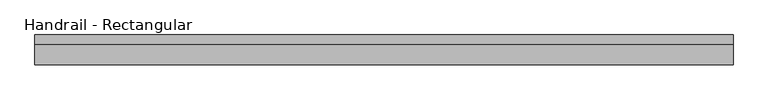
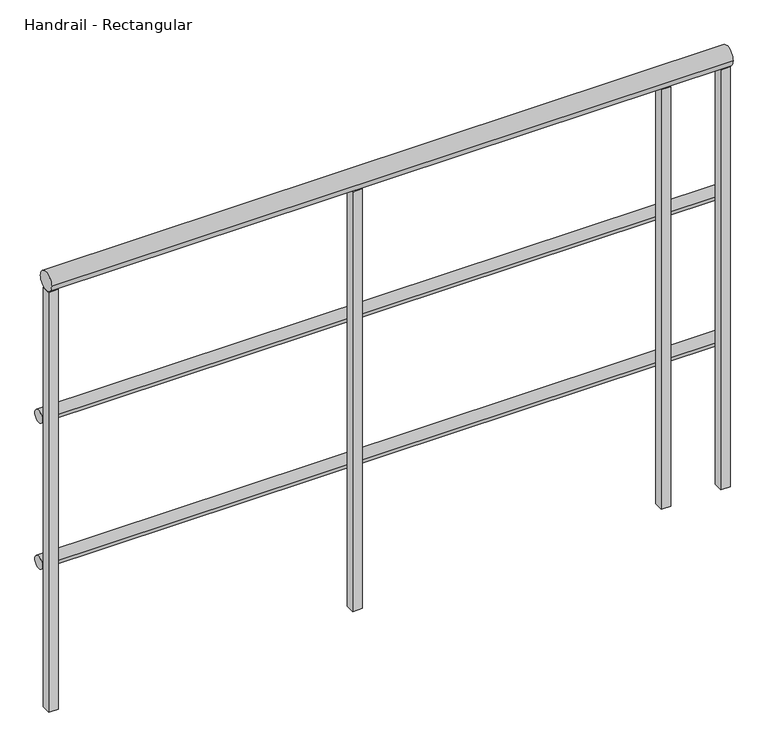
"""IFC4 building model written with IfcOpenShell, lengths in millimetres: railing geometry, Handrail - Rectangular."""

from ifc_helpers import new_model, si_unit, point, frame, frame_2d, origin, place, context, project, spatial, polyline, circle_curve, trimmed, segment, composite_curve, outline, extrude, source, transform, mapped, element, save


def handrail_rectangular_875d33ba(model_context):
    return source(origin(), model_context, "Body", "SweptSolid", [
        extrude(outline(composite_curve([segment(trimmed(circle_curve(frame_2d((11970.2316867, 9740.9)), 12.7), [point((11982.9316867, 9740.9))], [point((11957.5316867, 9740.9))], False, "CARTESIAN"), True, "CONTINUOUS"), segment(trimmed(circle_curve(frame_2d((11970.2316867, 9740.9)), 12.7), [point((11957.5316867, 9740.9))], [point((11982.9316867, 9740.9))], False, "CARTESIAN"), True, "CONTINUOUS")], self_intersect=False)), frame((-5665.7589563, 0.0, 0.0), z_axis=(1.0, 0.0, 0.0), x_axis=(0.0, 1.0, 0.0)), (0.0, 0.0, 1.0), 1346.2),
        extrude(outline(composite_curve([segment(trimmed(circle_curve(frame_2d((11970.2316867, 9436.1)), 12.7), [point((11982.9316867, 9436.1))], [point((11957.5316867, 9436.1))], False, "CARTESIAN"), True, "CONTINUOUS"), segment(trimmed(circle_curve(frame_2d((11970.2316867, 9436.1)), 12.7), [point((11957.5316867, 9436.1))], [point((11982.9316867, 9436.1))], False, "CARTESIAN"), True, "CONTINUOUS")], self_intersect=False)), frame((-5665.7589563, 0.0, 0.0), z_axis=(1.0, 0.0, 0.0), x_axis=(0.0, 1.0, 0.0)), (0.0, 0.0, 1.0), 1346.2),
        extrude(outline(composite_curve([segment(trimmed(circle_curve(frame_2d((11944.8316867, 10039.35)), 19.05), [point((11963.8816867, 10039.35))], [point((11925.7816867, 10039.35))], False, "CARTESIAN"), True, "CONTINUOUS"), segment(trimmed(circle_curve(frame_2d((11944.8316867, 10039.35)), 19.05), [point((11925.7816867, 10039.35))], [point((11963.8816867, 10039.35))], False, "CARTESIAN"), True, "CONTINUOUS")], self_intersect=False)), frame((-5665.7589563, 0.0, 0.0), z_axis=(1.0, 0.0, 0.0), x_axis=(0.0, 1.0, 0.0)), (0.0, 0.0, 1.0), 1346.2),
        extrude(outline(polyline([(-4456.0839563, 11935.3066867), (-4456.0839563, 11954.3566867), (-4437.0339563, 11954.3566867), (-4437.0339563, 11935.3066867), (-4456.0839563, 11935.3066867)])), frame((0.0, 0.0, 9144.0), z_axis=(0.0, 0.0, 1.0), x_axis=(1.0, 0.0, 0.0)), (0.0, 0.0, 1.0), 876.3),
        extrude(outline(polyline([(-5065.6839563, 11935.3066867), (-5065.6839563, 11954.3566867), (-5046.6339563, 11954.3566867), (-5046.6339563, 11935.3066867), (-5065.6839563, 11935.3066867)])), frame((0.0, 0.0, 9144.0), z_axis=(0.0, 0.0, 1.0), x_axis=(1.0, 0.0, 0.0)), (0.0, 0.0, 1.0), 876.3),
        extrude(outline(polyline([(-4338.6089563, 11935.3066867), (-4338.6089563, 11954.3566867), (-4319.5589563, 11954.3566867), (-4319.5589563, 11935.3066867), (-4338.6089563, 11935.3066867)])), frame((0.0, 0.0, 9144.0), z_axis=(0.0, 0.0, 1.0), x_axis=(1.0, 0.0, 0.0)), (0.0, 0.0, 1.0), 876.3),
        extrude(outline(polyline([(-5665.7589563, 11935.3066867), (-5665.7589563, 11954.3566867), (-5646.7089563, 11954.3566867), (-5646.7089563, 11935.3066867), (-5665.7589563, 11935.3066867)])), frame((0.0, 0.0, 9144.0), z_axis=(0.0, 0.0, 1.0), x_axis=(1.0, 0.0, 0.0)), (0.0, 0.0, 1.0), 876.3),
    ])


if __name__ == "__main__":
    model = new_model("IFC4")
    model_context = context("Model", 3, world=origin())
    ifc_project = project(units=[si_unit("LENGTHUNIT", "METRE", prefix="MILLI")], contexts=[model_context])
    site = spatial("IfcSite", under=ifc_project)
    building = spatial("IfcBuilding", under=site)
    placement = place(None, origin())
    handrail_rectangular_shape = handrail_rectangular_875d33ba(model_context)
    element("IfcRailing", 1, ObjectType="Handrail - Rectangular", at=placement, inside=building, context=model_context, shape_type="MappedRepresentation", body=[
        mapped(handrail_rectangular_shape, transform((0.0, 0.0, 0.0), x_axis=(1.0, 0.0, 0.0), y_axis=(0.0, 1.0, 0.0), z_axis=(0.0, 0.0, 1.0))),
    ])
    save(model, "model.ifc")
